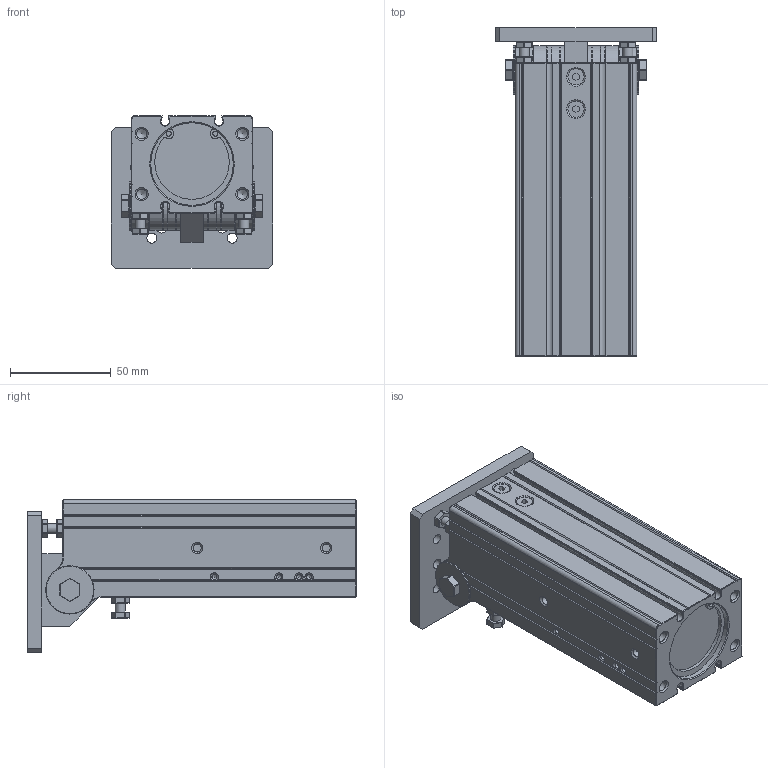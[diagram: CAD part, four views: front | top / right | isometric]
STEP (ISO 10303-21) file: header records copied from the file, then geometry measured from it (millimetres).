
FILE_DESCRIPTION(/* description */ (''),/* implementation_level */ '2;1');
FILE_NAME(/* name */ 'DHR3C-40M30ZG-ZB.stp',/* time_stamp */ '2022-02-23T17:48:32+08:00',/* author */ (''),/* organization */ (''),/* preprocessor_version */ 'ST-DEVELOPER v14',/* originating_system */ 'SIEMENS PLM Software NX 8.0',/* authorisation */ '');
FILE_SCHEMA (('CONFIG_CONTROL_DESIGN'));
Products named in the file (1): DHR3C-40M30ZG-ZB
Bounding box: 80 x 163.3 x 75.8 mm (x, y, z)
Volume: 423268 mm3; surface area: 78797.9 mm2
Topology: 5 solids, 19 shells, 1948 faces, 5388 edges, 3481 vertices
Faces by surface type: plane 1629, cylinder 155, cone 142, bspline 11, extrusion 11
Full cylindrical faces by diameter (mm): 2.5 x6, 3.3 x3, 4 x8, 4.2 x2, 4.5 x2, 5 x38, 6.5 x2, 8 x2, 10 x3, 12 x2, 14 x1, 23.6 x4, 24 x8, 24.002 x2, 41 x3, 43 x2
Entity records: 63087 total; most frequent: CARTESIAN_POINT 18553, ORIENTED_EDGE 10254, DIRECTION 7290, EDGE_CURVE 5127, VERTEX_POINT 3407, VECTOR 2454, LINE 2443, AXIS2_PLACEMENT_3D 2418
